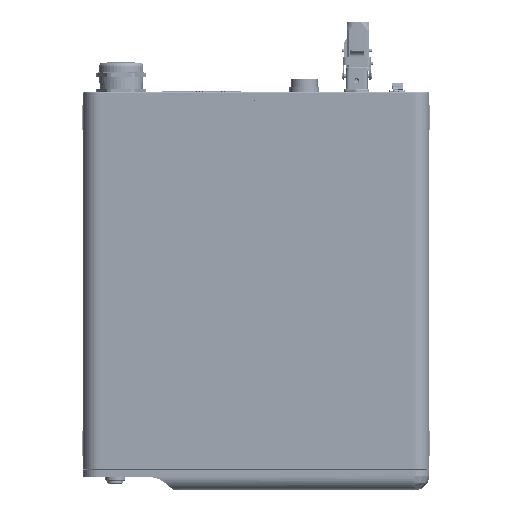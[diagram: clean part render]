
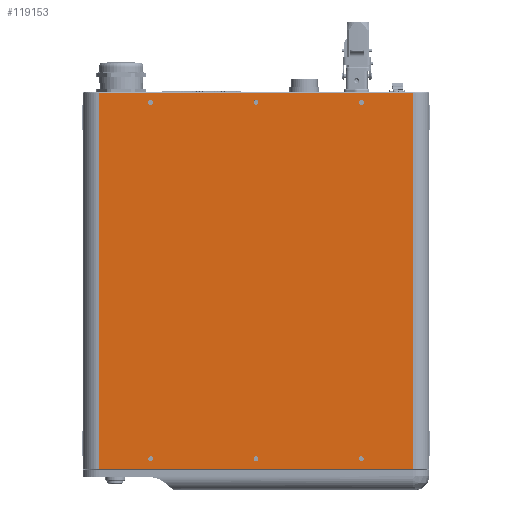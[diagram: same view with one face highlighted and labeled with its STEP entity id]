
A CAD part, top view. The second image highlights one B-rep face of the part: STEP entity #119153.
In plain terms, the highlighted planar face has unit normal (0, 0, 1).
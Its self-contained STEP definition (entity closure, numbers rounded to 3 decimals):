
#58851=LINE('',#581423,#94983);
#58860=LINE('',#581463,#94992);
#58861=LINE('',#581479,#94993);
#58862=LINE('',#581481,#94994);
#94983=VECTOR('',#453981,1.);
#94992=VECTOR('',#454018,1.);
#94993=VECTOR('',#454035,1.);
#94994=VECTOR('',#454036,1.);
#119153=ADVANCED_FACE('',(#135504,#135505,#135506,#135507,#135508,#135509,
#135510),#131289,.T.);
#131289=PLANE('',#366602);
#135504=FACE_BOUND('',#153905,.T.);
#135505=FACE_BOUND('',#153906,.T.);
#135506=FACE_BOUND('',#153907,.T.);
#135507=FACE_BOUND('',#153908,.T.);
#135508=FACE_BOUND('',#153909,.T.);
#135509=FACE_BOUND('',#153910,.T.);
#135510=FACE_BOUND('',#153911,.T.);
#153905=EDGE_LOOP('',(#243930));
#153906=EDGE_LOOP('',(#243931));
#153907=EDGE_LOOP('',(#243932));
#153908=EDGE_LOOP('',(#243933));
#153909=EDGE_LOOP('',(#243934));
#153910=EDGE_LOOP('',(#243935));
#153911=EDGE_LOOP('',(#243936,#243937,#243938,#243939));
#243930=ORIENTED_EDGE('',*,*,#326451,.F.);
#243931=ORIENTED_EDGE('',*,*,#326452,.F.);
#243932=ORIENTED_EDGE('',*,*,#326453,.F.);
#243933=ORIENTED_EDGE('',*,*,#326454,.F.);
#243934=ORIENTED_EDGE('',*,*,#326455,.F.);
#243935=ORIENTED_EDGE('',*,*,#326456,.F.);
#243936=ORIENTED_EDGE('',*,*,#326457,.F.);
#243937=ORIENTED_EDGE('',*,*,#326429,.F.);
#243938=ORIENTED_EDGE('',*,*,#326449,.T.);
#243939=ORIENTED_EDGE('',*,*,#326458,.T.);
#280113=VERTEX_POINT('',#581422);
#280114=VERTEX_POINT('',#581424);
#280131=VERTEX_POINT('',#581464);
#280132=VERTEX_POINT('',#581468);
#280133=VERTEX_POINT('',#581470);
#280134=VERTEX_POINT('',#581472);
#280135=VERTEX_POINT('',#581474);
#280136=VERTEX_POINT('',#581476);
#280137=VERTEX_POINT('',#581478);
#280138=VERTEX_POINT('',#581480);
#326429=EDGE_CURVE('',#280113,#280114,#58851,.T.);
#326449=EDGE_CURVE('',#280113,#280131,#58860,.T.);
#326451=EDGE_CURVE('',#280132,#280132,#339978,.T.);
#326452=EDGE_CURVE('',#280133,#280133,#339979,.T.);
#326453=EDGE_CURVE('',#280134,#280134,#339980,.T.);
#326454=EDGE_CURVE('',#280135,#280135,#339981,.T.);
#326455=EDGE_CURVE('',#280136,#280136,#339982,.T.);
#326456=EDGE_CURVE('',#280137,#280137,#339983,.T.);
#326457=EDGE_CURVE('',#280114,#280138,#58861,.T.);
#326458=EDGE_CURVE('',#280131,#280138,#58862,.T.);
#339978=CIRCLE('',#366596,2.75);
#339979=CIRCLE('',#366597,2.75);
#339980=CIRCLE('',#366598,2.75);
#339981=CIRCLE('',#366599,2.75);
#339982=CIRCLE('',#366600,2.75);
#339983=CIRCLE('',#366601,2.75);
#366596=AXIS2_PLACEMENT_3D('',#581467,#454023,#454024);
#366597=AXIS2_PLACEMENT_3D('',#581469,#454025,#454026);
#366598=AXIS2_PLACEMENT_3D('',#581471,#454027,#454028);
#366599=AXIS2_PLACEMENT_3D('',#581473,#454029,#454030);
#366600=AXIS2_PLACEMENT_3D('',#581475,#454031,#454032);
#366601=AXIS2_PLACEMENT_3D('',#581477,#454033,#454034);
#366602=AXIS2_PLACEMENT_3D('',#581482,#454037,#454038);
#453981=DIRECTION('',(1.,0.,0.));
#454018=DIRECTION('',(0.,-1.,0.));
#454023=DIRECTION('',(0.,0.,1.));
#454024=DIRECTION('',(1.,0.,0.));
#454025=DIRECTION('',(0.,0.,1.));
#454026=DIRECTION('',(1.,0.,0.));
#454027=DIRECTION('',(0.,0.,1.));
#454028=DIRECTION('',(1.,0.,0.));
#454029=DIRECTION('',(0.,0.,1.));
#454030=DIRECTION('',(1.,0.,0.));
#454031=DIRECTION('',(0.,0.,1.));
#454032=DIRECTION('',(1.,0.,0.));
#454033=DIRECTION('',(0.,0.,1.));
#454034=DIRECTION('',(1.,0.,0.));
#454035=DIRECTION('',(0.,-1.,0.));
#454036=DIRECTION('',(1.,0.,0.));
#454037=DIRECTION('',(0.,0.,1.));
#454038=DIRECTION('',(1.,0.,0.));
#581422=CARTESIAN_POINT('',(-175.,420.8,-10.));
#581423=CARTESIAN_POINT('',(0.,420.8,-10.));
#581424=CARTESIAN_POINT('',(175.,420.8,-10.));
#581463=CARTESIAN_POINT('',(-175.,211.,-10.));
#581464=CARTESIAN_POINT('',(-175.,1.2,-10.));
#581467=CARTESIAN_POINT('',(0.,12.2,-10.));
#581468=CARTESIAN_POINT('',(2.75,12.2,-10.));
#581469=CARTESIAN_POINT('',(-117.5,12.2,-10.));
#581470=CARTESIAN_POINT('',(-114.75,12.2,-10.));
#581471=CARTESIAN_POINT('',(117.5,12.2,-10.));
#581472=CARTESIAN_POINT('',(120.25,12.2,-10.));
#581473=CARTESIAN_POINT('',(117.5,409.8,-10.));
#581474=CARTESIAN_POINT('',(120.25,409.8,-10.));
#581475=CARTESIAN_POINT('',(0.,409.8,-10.));
#581476=CARTESIAN_POINT('',(2.75,409.8,-10.));
#581477=CARTESIAN_POINT('',(-117.5,409.8,-10.));
#581478=CARTESIAN_POINT('',(-114.75,409.8,-10.));
#581479=CARTESIAN_POINT('',(175.,211.,-10.));
#581480=CARTESIAN_POINT('',(175.,1.2,-10.));
#581481=CARTESIAN_POINT('',(0.,1.2,-10.));
#581482=CARTESIAN_POINT('',(-187.5,0.,-10.));
